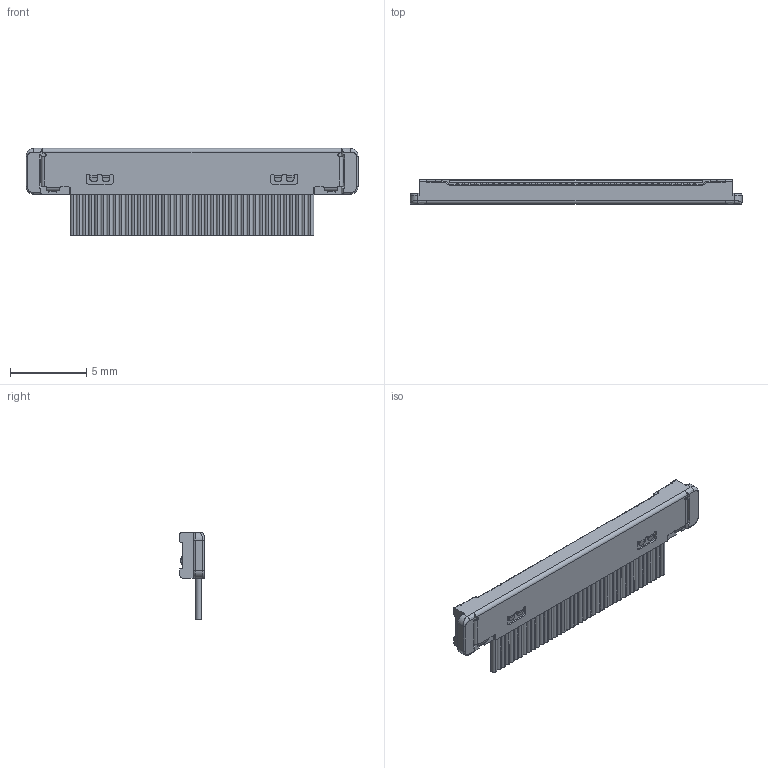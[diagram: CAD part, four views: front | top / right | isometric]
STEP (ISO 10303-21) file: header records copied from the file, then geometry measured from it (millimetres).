
FILE_DESCRIPTION (( 'STEP AP203' ), '1' );
FILE_NAME ('20380-040T-03C PLUG CABLE ASSY STEP R7R2 ALL.STEP', '2012-03-16T15:54:47', ( ' ' ), ( ' ' ), 'SwSTEP 2.0', 'SolidWorks 2011', '' );
FILE_SCHEMA (( 'CONFIG_CONTROL_DESIGN' ));
Length unit declared in the file: millimetre
Products named in the file (1): 20380-040T-03C PLUG CABLE ASSY STEP R7R2 ALL
Bounding box: 21.8 x 1.6 x 5.72 mm (x, y, z)
Volume: 78.3 mm3; surface area: 469.8 mm2
Topology: 1 solids, 1 shells, 1342 faces, 3888 edges, 2506 vertices
Faces by surface type: plane 886, cylinder 401, sphere 31, torus 14, bspline 6, cone 4
Entity records: 44116 total; most frequent: CARTESIAN_POINT 9039, ORIENTED_EDGE 7590, DIRECTION 7191, EDGE_CURVE 3795, VECTOR 2541, LINE 2541, VERTEX_POINT 2444, AXIS2_PLACEMENT_3D 2325
